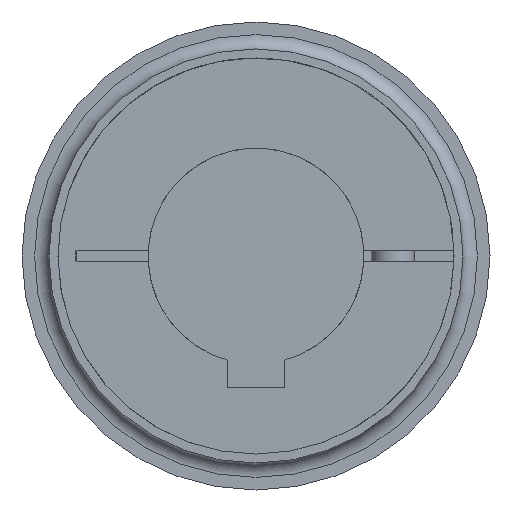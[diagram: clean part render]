
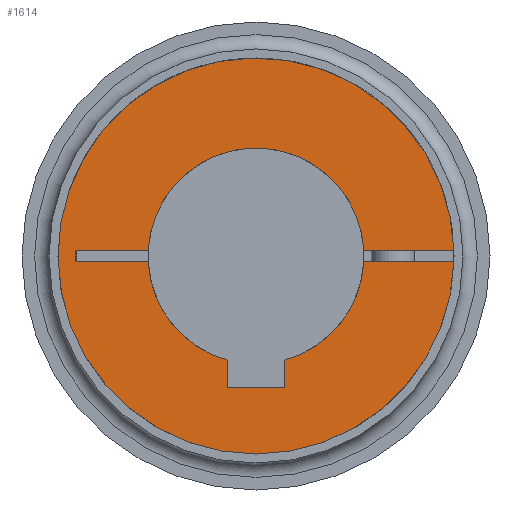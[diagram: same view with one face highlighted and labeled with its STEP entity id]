
A CAD part, left-side view. The second image highlights one B-rep face of the part: STEP entity #1614.
In plain terms, the highlighted planar face has unit normal (-1, 0, 0).
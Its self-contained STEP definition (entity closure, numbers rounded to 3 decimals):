
#24=PLANE('',#1855);
#149=LINE('',#2938,#252);
#152=LINE('',#2944,#255);
#153=LINE('',#2946,#256);
#164=LINE('',#2967,#267);
#165=LINE('',#2969,#268);
#166=LINE('',#2971,#269);
#167=LINE('',#2973,#270);
#168=LINE('',#2974,#271);
#252=VECTOR('',#2265,1.);
#255=VECTOR('',#2270,1.);
#256=VECTOR('',#2273,1.);
#267=VECTOR('',#2296,1.);
#268=VECTOR('',#2299,1.);
#269=VECTOR('',#2300,1.);
#270=VECTOR('',#2301,1.);
#271=VECTOR('',#2302,1.);
#387=FACE_OUTER_BOUND('',#490,.T.);
#490=EDGE_LOOP('',(#1332,#1333,#1334,#1335,#1336,#1337,#1338,#1339,#1340,
#1341,#1342,#1343,#1344));
#652=CIRCLE('',#1790,27.5);
#655=CIRCLE('',#1793,27.5);
#686=CIRCLE('',#1839,15.);
#689=CIRCLE('',#1843,15.);
#691=CIRCLE('',#1845,15.);
#761=VERTEX_POINT('',#2634);
#762=VERTEX_POINT('',#2636);
#767=VERTEX_POINT('',#2646);
#808=VERTEX_POINT('',#2908);
#809=VERTEX_POINT('',#2909);
#814=VERTEX_POINT('',#2920);
#815=VERTEX_POINT('',#2922);
#818=VERTEX_POINT('',#2928);
#819=VERTEX_POINT('',#2930);
#821=VERTEX_POINT('',#2936);
#823=VERTEX_POINT('',#2942);
#828=VERTEX_POINT('',#2970);
#829=VERTEX_POINT('',#2972);
#946=EDGE_CURVE('',#761,#762,#652,.T.);
#952=EDGE_CURVE('',#767,#761,#655,.T.);
#1005=EDGE_CURVE('',#808,#809,#686,.T.);
#1011=EDGE_CURVE('',#815,#814,#689,.T.);
#1015=EDGE_CURVE('',#819,#818,#691,.T.);
#1019=EDGE_CURVE('',#818,#821,#149,.T.);
#1022=EDGE_CURVE('',#821,#823,#152,.T.);
#1023=EDGE_CURVE('',#823,#815,#153,.T.);
#1034=EDGE_CURVE('',#809,#762,#164,.T.);
#1035=EDGE_CURVE('',#767,#819,#165,.T.);
#1036=EDGE_CURVE('',#814,#828,#166,.T.);
#1037=EDGE_CURVE('',#828,#829,#167,.T.);
#1038=EDGE_CURVE('',#829,#808,#168,.T.);
#1332=ORIENTED_EDGE('',*,*,#1005,.T.);
#1333=ORIENTED_EDGE('',*,*,#1034,.T.);
#1334=ORIENTED_EDGE('',*,*,#946,.F.);
#1335=ORIENTED_EDGE('',*,*,#952,.F.);
#1336=ORIENTED_EDGE('',*,*,#1035,.T.);
#1337=ORIENTED_EDGE('',*,*,#1015,.T.);
#1338=ORIENTED_EDGE('',*,*,#1019,.T.);
#1339=ORIENTED_EDGE('',*,*,#1022,.T.);
#1340=ORIENTED_EDGE('',*,*,#1023,.T.);
#1341=ORIENTED_EDGE('',*,*,#1011,.T.);
#1342=ORIENTED_EDGE('',*,*,#1036,.T.);
#1343=ORIENTED_EDGE('',*,*,#1037,.T.);
#1344=ORIENTED_EDGE('',*,*,#1038,.T.);
#1614=ADVANCED_FACE('',(#387),#24,.T.);
#1790=AXIS2_PLACEMENT_3D('',#2637,#2124,#2125);
#1793=AXIS2_PLACEMENT_3D('',#2648,#2133,#2134);
#1839=AXIS2_PLACEMENT_3D('',#2910,#2241,#2242);
#1843=AXIS2_PLACEMENT_3D('',#2923,#2252,#2253);
#1845=AXIS2_PLACEMENT_3D('',#2931,#2258,#2259);
#1855=AXIS2_PLACEMENT_3D('',#2968,#2297,#2298);
#2124=DIRECTION('center_axis',(1.,0.,0.));
#2125=DIRECTION('ref_axis',(0.,0.,1.));
#2133=DIRECTION('center_axis',(1.,0.,0.));
#2134=DIRECTION('ref_axis',(0.,0.,1.));
#2241=DIRECTION('center_axis',(1.,0.,0.));
#2242=DIRECTION('ref_axis',(0.,0.,-1.));
#2252=DIRECTION('center_axis',(1.,0.,0.));
#2253=DIRECTION('ref_axis',(0.,0.,-1.));
#2258=DIRECTION('center_axis',(1.,0.,0.));
#2259=DIRECTION('ref_axis',(0.,0.,-1.));
#2265=DIRECTION('',(0.,0.,-1.));
#2270=DIRECTION('',(0.,1.,0.));
#2273=DIRECTION('',(0.,0.,1.));
#2296=DIRECTION('',(0.,-1.,0.));
#2297=DIRECTION('center_axis',(-1.,0.,0.));
#2298=DIRECTION('ref_axis',(0.,0.,-1.));
#2299=DIRECTION('',(0.,1.,0.));
#2300=DIRECTION('',(0.,1.,0.));
#2301=DIRECTION('',(0.,0.,1.));
#2302=DIRECTION('',(0.,-1.,0.));
#2634=CARTESIAN_POINT('',(0.,0.,-27.5));
#2636=CARTESIAN_POINT('',(0.,-27.49,0.75));
#2637=CARTESIAN_POINT('Origin',(0.,0.,0.));
#2646=CARTESIAN_POINT('',(0.,-27.49,-0.75));
#2648=CARTESIAN_POINT('Origin',(0.,0.,0.));
#2908=CARTESIAN_POINT('',(0.,14.981,0.75));
#2909=CARTESIAN_POINT('',(0.,-14.981,0.75));
#2910=CARTESIAN_POINT('Origin',(0.,0.,0.));
#2920=CARTESIAN_POINT('',(0.,14.981,-0.75));
#2922=CARTESIAN_POINT('',(0.,4.,-14.457));
#2923=CARTESIAN_POINT('Origin',(0.,0.,0.));
#2928=CARTESIAN_POINT('',(0.,-4.,-14.457));
#2930=CARTESIAN_POINT('',(0.,-14.981,-0.75));
#2931=CARTESIAN_POINT('Origin',(0.,0.,0.));
#2936=CARTESIAN_POINT('',(0.,-4.,-18.3));
#2938=CARTESIAN_POINT('',(0.,-4.,2.3));
#2942=CARTESIAN_POINT('',(0.,4.,-18.3));
#2944=CARTESIAN_POINT('',(0.,0.,-18.3));
#2946=CARTESIAN_POINT('',(0.,4.,2.3));
#2967=CARTESIAN_POINT('',(0.,-0.875,0.75));
#2968=CARTESIAN_POINT('Origin',(0.,0.,13.75));
#2969=CARTESIAN_POINT('',(0.,-0.875,-0.75));
#2970=CARTESIAN_POINT('',(0.,25.,-0.75));
#2971=CARTESIAN_POINT('',(0.,-0.875,-0.75));
#2972=CARTESIAN_POINT('',(0.,25.,0.75));
#2973=CARTESIAN_POINT('',(0.,25.,6.875));
#2974=CARTESIAN_POINT('',(0.,-0.875,0.75));
